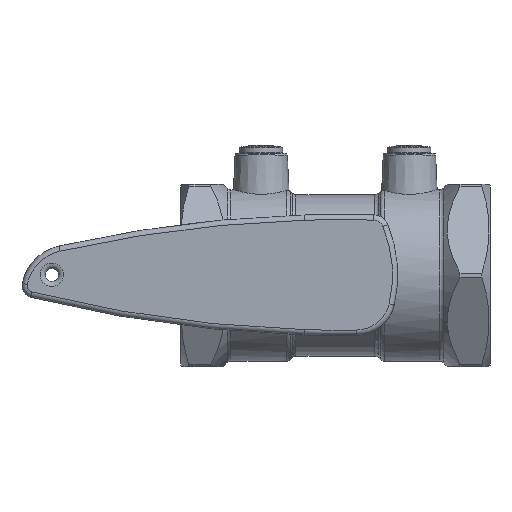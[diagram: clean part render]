
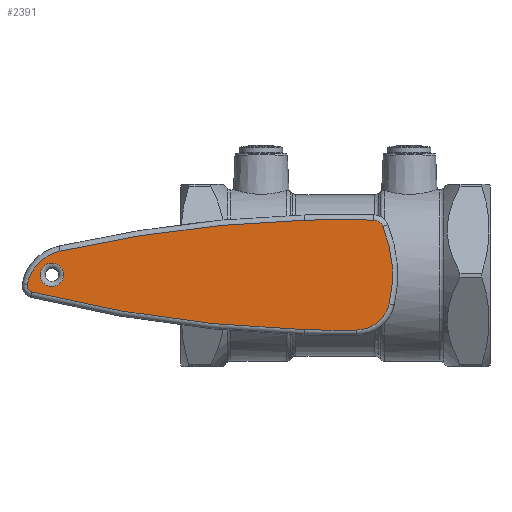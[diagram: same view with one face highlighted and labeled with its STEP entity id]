
A CAD part, top view. The second image highlights one B-rep face of the part: STEP entity #2391.
In plain terms, the highlighted planar face has unit normal (0, 0, 1).
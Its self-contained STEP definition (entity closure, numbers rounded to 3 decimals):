
#71=FACE_BOUND('',#413,.T.);
#98=PLANE('',#2716);
#272=FACE_OUTER_BOUND('',#412,.T.);
#412=EDGE_LOOP('',(#2060,#2061,#2062,#2063,#2064,#2065,#2066,#2067,#2068));
#413=EDGE_LOOP('',(#2069));
#614=CIRCLE('',#2713,4.5);
#617=CIRCLE('',#2717,495.754);
#618=CIRCLE('',#2718,12.99);
#619=CIRCLE('',#2719,48.994);
#620=CIRCLE('',#2720,3.998);
#621=CIRCLE('',#2721,495.754);
#622=CIRCLE('',#2722,495.909);
#623=CIRCLE('',#2723,16.56);
#624=CIRCLE('',#2724,2.501);
#625=CIRCLE('',#2725,495.863);
#1072=VERTEX_POINT('',#4391);
#1074=VERTEX_POINT('',#4397);
#1075=VERTEX_POINT('',#4398);
#1076=VERTEX_POINT('',#4400);
#1077=VERTEX_POINT('',#4402);
#1078=VERTEX_POINT('',#4404);
#1079=VERTEX_POINT('',#4406);
#1080=VERTEX_POINT('',#4408);
#1081=VERTEX_POINT('',#4410);
#1082=VERTEX_POINT('',#4412);
#1413=EDGE_CURVE('',#1072,#1072,#614,.T.);
#1416=EDGE_CURVE('',#1074,#1075,#617,.T.);
#1417=EDGE_CURVE('',#1076,#1074,#618,.T.);
#1418=EDGE_CURVE('',#1077,#1076,#619,.T.);
#1419=EDGE_CURVE('',#1078,#1077,#620,.T.);
#1420=EDGE_CURVE('',#1079,#1078,#621,.T.);
#1421=EDGE_CURVE('',#1080,#1079,#622,.T.);
#1422=EDGE_CURVE('',#1081,#1080,#623,.T.);
#1423=EDGE_CURVE('',#1082,#1081,#624,.T.);
#1424=EDGE_CURVE('',#1075,#1082,#625,.T.);
#2060=ORIENTED_EDGE('',*,*,#1416,.F.);
#2061=ORIENTED_EDGE('',*,*,#1417,.F.);
#2062=ORIENTED_EDGE('',*,*,#1418,.F.);
#2063=ORIENTED_EDGE('',*,*,#1419,.F.);
#2064=ORIENTED_EDGE('',*,*,#1420,.F.);
#2065=ORIENTED_EDGE('',*,*,#1421,.F.);
#2066=ORIENTED_EDGE('',*,*,#1422,.F.);
#2067=ORIENTED_EDGE('',*,*,#1423,.F.);
#2068=ORIENTED_EDGE('',*,*,#1424,.F.);
#2069=ORIENTED_EDGE('',*,*,#1413,.F.);
#2391=ADVANCED_FACE('',(#272,#71),#98,.T.);
#2713=AXIS2_PLACEMENT_3D('',#4392,#3391,#3392);
#2716=AXIS2_PLACEMENT_3D('',#4396,#3397,#3398);
#2717=AXIS2_PLACEMENT_3D('',#4399,#3399,#3400);
#2718=AXIS2_PLACEMENT_3D('',#4401,#3401,#3402);
#2719=AXIS2_PLACEMENT_3D('',#4403,#3403,#3404);
#2720=AXIS2_PLACEMENT_3D('',#4405,#3405,#3406);
#2721=AXIS2_PLACEMENT_3D('',#4407,#3407,#3408);
#2722=AXIS2_PLACEMENT_3D('',#4409,#3409,#3410);
#2723=AXIS2_PLACEMENT_3D('',#4411,#3411,#3412);
#2724=AXIS2_PLACEMENT_3D('',#4413,#3413,#3414);
#2725=AXIS2_PLACEMENT_3D('',#4414,#3415,#3416);
#3391=DIRECTION('center_axis',(0.,0.,1.));
#3392=DIRECTION('ref_axis',(-1.,0.,0.));
#3397=DIRECTION('center_axis',(0.,0.,1.));
#3398=DIRECTION('ref_axis',(1.,0.,0.));
#3399=DIRECTION('center_axis',(0.,0.,-1.));
#3400=DIRECTION('ref_axis',(-0.008,-1.,0.));
#3401=DIRECTION('center_axis',(0.,0.,-1.));
#3402=DIRECTION('ref_axis',(0.626,-0.78,0.));
#3403=DIRECTION('center_axis',(0.,0.,-1.));
#3404=DIRECTION('ref_axis',(0.997,0.08,0.));
#3405=DIRECTION('center_axis',(0.,0.,-1.));
#3406=DIRECTION('ref_axis',(0.567,0.823,0.));
#3407=DIRECTION('center_axis',(0.,0.,-1.));
#3408=DIRECTION('ref_axis',(-0.002,1.,0.));
#3409=DIRECTION('center_axis',(0.,0.,-1.));
#3410=DIRECTION('ref_axis',(-0.126,0.992,0.));
#3411=DIRECTION('center_axis',(0.,0.,-1.));
#3412=DIRECTION('ref_axis',(-0.714,0.7,0.));
#3413=DIRECTION('center_axis',(0.,0.,-1.));
#3414=DIRECTION('ref_axis',(-0.846,-0.533,0.));
#3415=DIRECTION('center_axis',(0.,0.,-1.));
#3416=DIRECTION('ref_axis',(-0.137,-0.991,0.));
#4391=CARTESIAN_POINT('',(-104.5,0.,118.85));
#4392=CARTESIAN_POINT('Origin',(-109.,0.,
118.85));
#4396=CARTESIAN_POINT('Origin',(-43.62,0.026,118.85));
#4397=CARTESIAN_POINT('',(8.211,-21.207,118.85));
#4398=CARTESIAN_POINT('',(-11.945,-21.044,118.85));
#4399=CARTESIAN_POINT('Origin',(2.142,474.51,118.85));
#4400=CARTESIAN_POINT('',(20.701,-11.182,118.85));
#4401=CARTESIAN_POINT('Origin',(8.054,-8.219,118.85));
#4402=CARTESIAN_POINT('',(18.323,18.607,118.85));
#4403=CARTESIAN_POINT('Origin',(-27.,0.,
118.85));
#4404=CARTESIAN_POINT('',(14.727,21.085,118.85));
#4405=CARTESIAN_POINT('Origin',(14.625,17.088,118.85));
#4406=CARTESIAN_POINT('',(-11.945,21.044,118.85));
#4407=CARTESIAN_POINT('Origin',(2.142,-474.51,118.85));
#4408=CARTESIAN_POINT('',(-105.873,9.151,118.85));
#4409=CARTESIAN_POINT('Origin',(3.103,-474.637,118.85));
#4410=CARTESIAN_POINT('',(-118.453,-3.675,118.85));
#4411=CARTESIAN_POINT('Origin',(-102.231,-7.004,118.85));
#4412=CARTESIAN_POINT('',(-116.606,-6.606,118.85));
#4413=CARTESIAN_POINT('Origin',(-116.003,-4.178,118.85));
#4414=CARTESIAN_POINT('Origin',(3.102,474.591,118.85));
